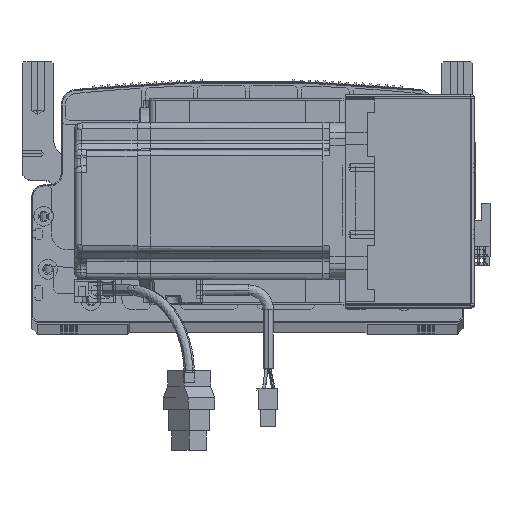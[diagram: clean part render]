
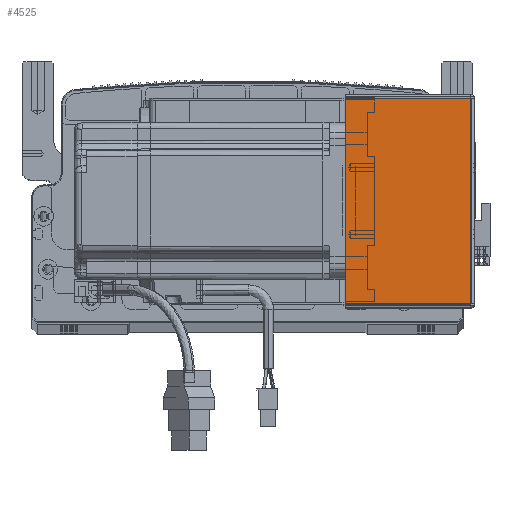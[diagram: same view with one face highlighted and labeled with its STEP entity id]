
A CAD part, top view. The second image highlights one B-rep face of the part: STEP entity #4525.
In plain terms, the highlighted planar face has unit normal (0, 0, 1) as drawn and (0, 0, -1) by its records, which use the part's own axes.
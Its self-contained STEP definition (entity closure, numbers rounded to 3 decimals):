
#177 = LINE ( 'NONE', #3832, #51116 ) ;
#219 = DIRECTION ( 'NONE',  ( 0., 0., 1. ) ) ;
#3832 = CARTESIAN_POINT ( 'NONE',  ( 64.5, 0., -205.5 ) ) ;
#4525 = ADVANCED_FACE ( 'NONE', ( #53263 ), #14845, .F. ) ;
#5087 = EDGE_CURVE ( 'NONE', #25468, #44906, #87546, .T. ) ;
#6573 = ORIENTED_EDGE ( 'NONE', *, *, #18579, .T. ) ;
#7515 = DIRECTION ( 'NONE',  ( 1., 0., 0. ) ) ;
#12464 = DIRECTION ( 'NONE',  ( 0., -1., 0. ) ) ;
#14845 = PLANE ( 'NONE',  #16295 ) ;
#15432 = DIRECTION ( 'NONE',  ( 1., 0., 0. ) ) ;
#16295 = AXIS2_PLACEMENT_3D ( 'NONE', #30436, #219, #7515 ) ;
#18579 = EDGE_CURVE ( 'NONE', #32022, #35019, #177, .T. ) ;
#21267 = VECTOR ( 'NONE', #47360, 1000. ) ;
#21808 = CARTESIAN_POINT ( 'NONE',  ( 64.5, 105.293, -205.5 ) ) ;
#22749 = CARTESIAN_POINT ( 'NONE',  ( 0., 0.707, -205.5 ) ) ;
#25468 = VERTEX_POINT ( 'NONE', #46197 ) ;
#30436 = CARTESIAN_POINT ( 'NONE',  ( 0., 0., -205.5 ) ) ;
#31517 = CARTESIAN_POINT ( 'NONE',  ( 0.737, 0., -205.5 ) ) ;
#32022 = VERTEX_POINT ( 'NONE', #21808 ) ;
#32910 = ORIENTED_EDGE ( 'NONE', *, *, #44547, .F. ) ;
#35019 = VERTEX_POINT ( 'NONE', #64826 ) ;
#41547 = EDGE_LOOP ( 'NONE', ( #55846, #91795, #6573, #32910 ) ) ;
#44547 = EDGE_CURVE ( 'NONE', #44906, #35019, #93305, .T. ) ;
#44906 = VERTEX_POINT ( 'NONE', #50187 ) ;
#46197 = CARTESIAN_POINT ( 'NONE',  ( 0.737, 105.293, -205.5 ) ) ;
#47360 = DIRECTION ( 'NONE',  ( 0., -1., 0. ) ) ;
#50187 = CARTESIAN_POINT ( 'NONE',  ( 0.737, 0.707, -205.5 ) ) ;
#50403 = EDGE_CURVE ( 'NONE', #25468, #32022, #90537, .T. ) ;
#51116 = VECTOR ( 'NONE', #12464, 1000. ) ;
#53211 = DIRECTION ( 'NONE',  ( 1., 0., 0. ) ) ;
#53263 = FACE_OUTER_BOUND ( 'NONE', #41547, .T. ) ;
#55350 = VECTOR ( 'NONE', #53211, 1000. ) ;
#55846 = ORIENTED_EDGE ( 'NONE', *, *, #5087, .F. ) ;
#64826 = CARTESIAN_POINT ( 'NONE',  ( 64.5, 0.707, -205.5 ) ) ;
#70279 = VECTOR ( 'NONE', #15432, 1000. ) ;
#75659 = CARTESIAN_POINT ( 'NONE',  ( 0., 105.293, -205.5 ) ) ;
#87546 = LINE ( 'NONE', #31517, #21267 ) ;
#90537 = LINE ( 'NONE', #75659, #70279 ) ;
#91795 = ORIENTED_EDGE ( 'NONE', *, *, #50403, .T. ) ;
#93305 = LINE ( 'NONE', #22749, #55350 ) ;
